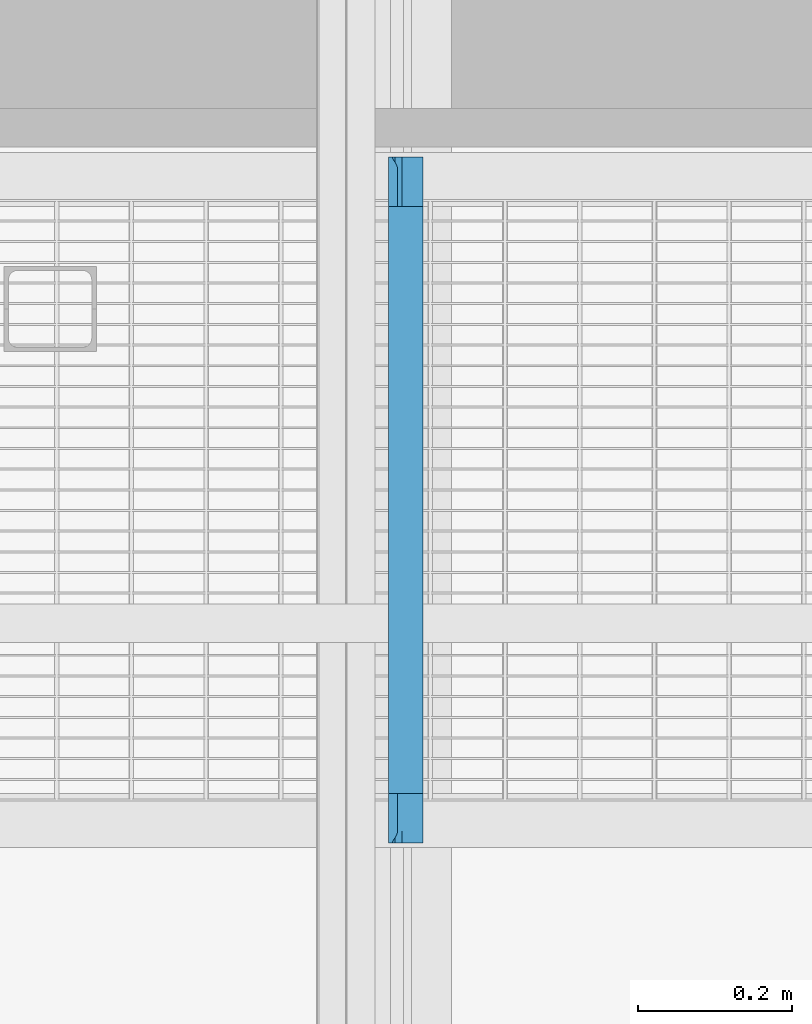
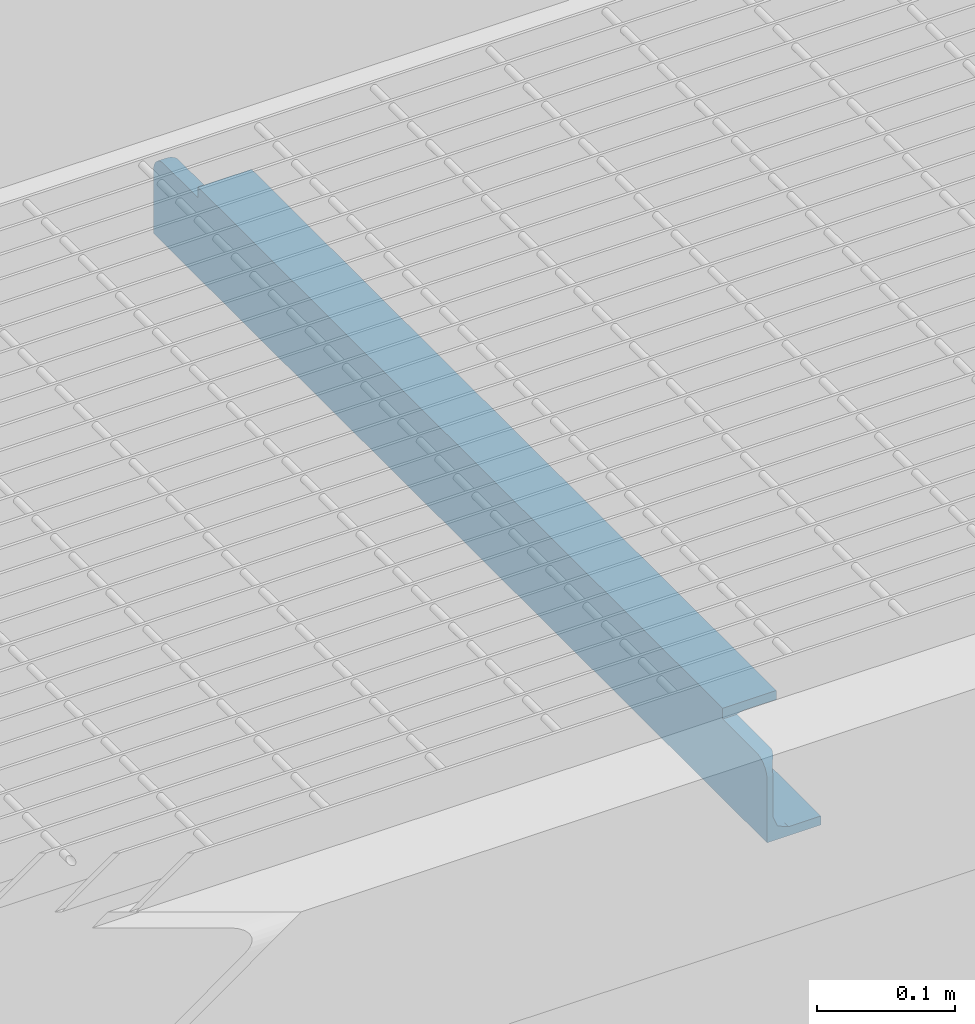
# One storey, part 51 of 75: 1 beam.
"""IFC2X3 building model written with IfcOpenShell, lengths in metres."""

from ifc_helpers import new_model, entity, si_unit, converted_unit, derived_unit, direction, frame, origin, place, context, subcontext, project, spatial, faceted_brep, material, type_object, element, save


model = new_model("IFC2X3")

# Units and contexts
model_context = context("Model", 3, precision=1e-05, world=origin(), true_north=direction((6.12303176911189e-17, 1.0)))
body_context = subcontext(model_context, "Body", "Model", "MODEL_VIEW")
ifc_project = project(units=[si_unit("LENGTHUNIT", "METRE"), si_unit("AREAUNIT", "SQUARE_METRE"), si_unit("VOLUMEUNIT", "CUBIC_METRE"), converted_unit("PLANEANGLEUNIT", "DEGREE", entity("IfcRatioMeasure", 0.0174532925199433), si_unit("PLANEANGLEUNIT", "RADIAN"), dimensions=[0, 0, 0, 0, 0, 0, 0]), si_unit("MASSUNIT", "GRAM", prefix="KILO"), derived_unit("MASSDENSITYUNIT", [(si_unit("MASSUNIT", "GRAM", prefix="KILO"), 1), (si_unit("LENGTHUNIT", "METRE"), -3)]), derived_unit("MOMENTOFINERTIAUNIT", [(si_unit("LENGTHUNIT", "METRE"), 4)]), si_unit("TIMEUNIT", "SECOND"), si_unit("FREQUENCYUNIT", "HERTZ"), si_unit("THERMODYNAMICTEMPERATUREUNIT", "DEGREE_CELSIUS"), derived_unit("THERMALTRANSMITTANCEUNIT", [(si_unit("MASSUNIT", "GRAM", prefix="KILO"), 1), (si_unit("THERMODYNAMICTEMPERATUREUNIT", "KELVIN"), -1), (si_unit("TIMEUNIT", "SECOND"), -3)]), derived_unit("VOLUMETRICFLOWRATEUNIT", [(si_unit("LENGTHUNIT", "METRE"), 3), (si_unit("TIMEUNIT", "SECOND"), -1)]), si_unit("ELECTRICCURRENTUNIT", "AMPERE"), si_unit("ELECTRICVOLTAGEUNIT", "VOLT"), si_unit("POWERUNIT", "WATT"), si_unit("FORCEUNIT", "NEWTON", prefix="KILO"), si_unit("ILLUMINANCEUNIT", "LUX"), si_unit("LUMINOUSFLUXUNIT", "LUMEN"), si_unit("LUMINOUSINTENSITYUNIT", "CANDELA"), derived_unit("USERDEFINED", [(si_unit("MASSUNIT", "GRAM", prefix="KILO"), -1), (si_unit("LENGTHUNIT", "METRE"), -2), (si_unit("TIMEUNIT", "SECOND"), 3), (si_unit("LUMINOUSFLUXUNIT", "LUMEN"), 1)]), derived_unit("LINEARVELOCITYUNIT", [(si_unit("LENGTHUNIT", "METRE"), 1), (si_unit("TIMEUNIT", "SECOND"), -1)]), si_unit("PRESSUREUNIT", "PASCAL"), derived_unit("USERDEFINED", [(si_unit("LENGTHUNIT", "METRE"), -2), (si_unit("MASSUNIT", "GRAM", prefix="KILO"), 1), (si_unit("TIMEUNIT", "SECOND"), -2)]), derived_unit("LINEARFORCEUNIT", [(si_unit("MASSUNIT", "GRAM", prefix="KILO"), 1), (si_unit("LENGTHUNIT", "METRE"), 1), (si_unit("TIMEUNIT", "SECOND"), -2), (si_unit("LENGTHUNIT", "METRE"), -1)]), derived_unit("PLANARFORCEUNIT", [(si_unit("MASSUNIT", "GRAM", prefix="KILO"), 1), (si_unit("LENGTHUNIT", "METRE"), 1), (si_unit("TIMEUNIT", "SECOND"), -2), (si_unit("LENGTHUNIT", "METRE"), -2)])], contexts=[model_context])

# Site, building, storey
site_placement = place(None, origin())
site = spatial("IfcSite", under=ifc_project, at=site_placement, Name="Superficie", CompositionType="ELEMENT")
building_placement = place(site_placement, origin())
building = spatial("IfcBuilding", under=site, at=building_placement, Name="Telegestiones", CompositionType="ELEMENT")
storey_placement = place(building_placement, origin())
storey = spatial("IfcBuildingStorey", under=building, at=storey_placement, Name="Nivel 0_NPT", CompositionType="ELEMENT", Elevation=0.0)

# Beam
ifc_material = material(Name="Metal - Acero - 345 MPa")
beam_type = type_object("IfcBeamType", Name="U-Canales de ala paralela:UAP80", PredefinedType="NOTDEFINED")
beam_placement = place(storey_placement, frame((11.6992897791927, 12.7898119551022, 17.78), z_axis=(0.0, 0.0, 1.0), x_axis=(0.0, -1.0, 0.0)))
element("IfcBeam", 1, at=beam_placement, inside=storey, type_object=beam_type, material=ifc_material, Name="U-Canales de ala paralela:UAP80", ObjectType="U-Canales de ala paralela:UAP80", context=body_context, shape_type="Brep", body=[
    faceted_brep([(-0.00159527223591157, 0.0450000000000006, 0.0), (-0.00159527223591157, 0.0450000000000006, 0.00799999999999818), (-0.00159527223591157, 0.0180000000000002, 0.00799999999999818), (-0.00159527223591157, 0.0140667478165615, 0.00962920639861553), (-0.00159527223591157, 0.0114371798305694, 0.0107184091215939), (-0.00159527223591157, 0.00880761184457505, 0.0118076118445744), (-0.00159527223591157, 0.00785570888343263, 0.014105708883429), (-0.00159527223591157, 0.00690380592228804, 0.0164038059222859), (-0.00159527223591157, 0.00595190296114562, 0.0187019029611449), (-0.00159527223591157, 0.00500000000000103, 0.0209999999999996), (-0.00159527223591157, 0.00500000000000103, 0.0579413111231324), (-0.00159527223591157, 0.0, 0.0579413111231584), (-0.00159527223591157, 0.0, 0.0), (-0.890595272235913, 0.0180000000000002, 0.00799999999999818), (-0.890595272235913, 0.0450000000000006, 0.00799999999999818), (-0.890595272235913, 0.0450000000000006, 0.0), (-0.890595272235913, 0.0, 0.0), (-0.890595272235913, 0.0, 0.0579413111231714), (-0.890595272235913, 0.00500000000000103, 0.0579413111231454), (-0.890595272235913, 0.00500000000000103, 0.0209999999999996), (-0.890595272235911, 0.00581460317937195, 0.0190333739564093), (-0.890595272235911, 0.00690380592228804, 0.0164038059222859), (-0.890595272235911, 0.00785570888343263, 0.0141057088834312), (-0.890595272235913, 0.00880761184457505, 0.0118076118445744), (-0.890595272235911, 0.0111057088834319, 0.0108557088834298), (-0.890595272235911, 0.0134038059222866, 0.00990380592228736), (-0.890595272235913, 0.0160333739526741, 0.00881460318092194), (-0.826295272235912, 0.0, 0.0799999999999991), (-0.0658952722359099, 0.0, 0.0799999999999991), (-0.0658952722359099, 0.0450000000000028, 0.0799999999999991), (-0.826295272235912, 0.0450000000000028, 0.0799999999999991), (-0.0658952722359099, 0.0450000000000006, 0.0719999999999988), (-0.826295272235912, 0.0450000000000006, 0.0719999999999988), (-0.0658952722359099, 0.0180000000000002, 0.0719999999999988), (-0.128842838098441, 0.0180000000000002, 0.0719999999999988), (-0.194304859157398, 0.0180000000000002, 0.0719999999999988), (-0.322714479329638, 0.0180000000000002, 0.0719999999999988), (-0.448609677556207, 0.0180000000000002, 0.072000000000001), (-0.574504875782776, 0.0180000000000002, 0.072000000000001), (-0.700400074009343, 0.0180000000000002, 0.0719999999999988), (-0.763347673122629, 0.0180000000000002, 0.0719999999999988), (-0.826295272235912, 0.0180000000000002, 0.0719999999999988), (-0.125338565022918, 0.00873473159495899, 0.0681189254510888), (-0.00990097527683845, 0.00971902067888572, 0.069021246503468), (-0.00722207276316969, 0.00805140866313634, 0.0673681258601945), (-0.5442968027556, 0.00667192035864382, 0.0653776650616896), (-0.463738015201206, 0.00590908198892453, 0.0637759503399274), (-0.537050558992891, 0.00560250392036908, 0.0629117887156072), (-0.792641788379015, 0.00525335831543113, 0.0615540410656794), (-0.794133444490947, 0.00500000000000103, 0.0589999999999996), (-0.890381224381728, 0.00500000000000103, 0.0589999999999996), (-0.0658952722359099, 0.0119378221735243, 0.0705000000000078), (-0.138679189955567, 0.0108749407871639, 0.0698735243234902), (-0.289684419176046, 0.00818591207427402, 0.0675254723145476), (-0.235689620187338, 0.00983678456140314, 0.0691174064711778), (-0.221438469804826, 0.00711297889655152, 0.0661044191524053), (-0.82835888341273, 0.00588467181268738, 0.0637136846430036), (-0.754190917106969, 0.0058648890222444, 0.063662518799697), (-0.12257071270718, 0.00586898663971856, 0.0636731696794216), (-0.00489743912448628, 0.00653775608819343, 0.0651332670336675), (-0.00303111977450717, 0.00542889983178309, 0.0623117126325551), (-0.139747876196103, 0.0133736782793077, 0.0711489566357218), (-0.0658952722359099, 0.0148775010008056, 0.0716194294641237), (-0.826295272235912, 0.0148775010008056, 0.0716194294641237), (-0.725006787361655, 0.007054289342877, 0.0660136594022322), (-0.806159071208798, 0.007190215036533, 0.066221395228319), (-0.75118826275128, 0.00871967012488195, 0.0681035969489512), (-0.821741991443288, 0.00878771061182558, 0.0681724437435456), (-0.731873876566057, 0.0157137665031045, 0.0717973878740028), (-0.656388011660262, 0.0158751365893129, 0.0718251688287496), (-0.887293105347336, 0.00653775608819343, 0.0651332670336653), (-0.884968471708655, 0.00805140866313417, 0.0673681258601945), (-0.153427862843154, 0.00681728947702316, 0.0656292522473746), (-0.0851009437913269, 0.00708655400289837, 0.0660637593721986), (-0.22387068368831, 0.00557806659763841, 0.0628334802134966), (-0.324805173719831, 0.0068593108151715, 0.0656996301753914), (-0.889159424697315, 0.00542889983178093, 0.0623117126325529), (-0.0163952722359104, 0.01193782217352, 0.0705000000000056), (-0.0129474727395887, 0.0112305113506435, 0.0700983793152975), (-0.875795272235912, 0.0119378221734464, 0.0704999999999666), (-0.826295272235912, 0.0119378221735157, 0.0705000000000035), (-0.879243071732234, 0.0112305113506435, 0.0700983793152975), (-0.399380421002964, 0.00536884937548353, 0.0620747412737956), (-0.392844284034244, 0.00621995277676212, 0.0644982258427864), (-0.226457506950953, 0.0133736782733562, 0.0711489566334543), (-0.161573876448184, 0.0157225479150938, 0.0717989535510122), (-0.753454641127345, 0.0133736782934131, 0.0711489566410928), (-0.667605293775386, 0.0133736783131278, 0.0711489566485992), (-0.710529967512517, 0.010898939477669, 0.069889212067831), (-0.882289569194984, 0.00971902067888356, 0.0690212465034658), (-0.390878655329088, 0.0147556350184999, 0.0715886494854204), (-0.511557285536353, 0.0147219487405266, 0.0715799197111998), (-0.447031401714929, 0.0116878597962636, 0.0703647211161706), (-0.155170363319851, 0.00522625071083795, 0.0614148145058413), (-0.0800317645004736, 0.00520855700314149, 0.0613192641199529), (-0.127704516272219, 0.00500000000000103, 0.0589999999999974), (-0.717894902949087, 0.00523967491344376, 0.0614847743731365), (-0.664463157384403, 0.00890351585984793, 0.0682873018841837), (-0.313627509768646, 0.0152996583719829, 0.0717164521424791), (-0.236434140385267, 0.0158580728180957, 0.0718223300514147), (-0.566912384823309, 0.011307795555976, 0.0701451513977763), (-0.449725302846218, 0.007164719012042, 0.0661830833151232), (-0.330812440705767, 0.01176120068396, 0.0704051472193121), (-0.00180932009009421, 0.00500000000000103, 0.0589999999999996), (-0.374471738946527, 0.00795566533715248, 0.0672529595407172), (-0.339661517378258, 0.00960203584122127, 0.0689234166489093), (-0.495596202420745, 0.00856943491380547, 0.0679478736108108), (-0.419471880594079, 0.00955595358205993, 0.0688842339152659), (-0.591250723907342, 0.0142535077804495, 0.0714484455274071), (-0.637492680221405, 0.0107328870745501, 0.0697791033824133), (-0.580926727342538, 0.00847032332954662, 0.0678422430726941), (-0.614751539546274, 0.00554163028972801, 0.0627133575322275), (-0.479182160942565, 0.00521908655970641, 0.0613766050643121), (-0.636794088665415, 0.00709380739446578, 0.0660749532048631), (-0.601637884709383, 0.00500000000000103, 0.0589999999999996), (-0.697885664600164, 0.00500000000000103, 0.0589999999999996), (-0.682036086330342, 0.005831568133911, 0.0635748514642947), (-0.5053901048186, 0.00500000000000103, 0.0589999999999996), (-0.327009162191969, 0.00576169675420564, 0.0633845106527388), (-0.253599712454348, 0.00500000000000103, 0.0589999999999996), (-0.379494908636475, 0.00500000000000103, 0.0589999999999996), (-0.890497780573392, 0.00500000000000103, 0.058472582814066), (-0.00169276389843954, 0.00500000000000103, 0.0584725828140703), (-0.127490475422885, 0.00500000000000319, 0.0209999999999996), (-0.25338564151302, 0.00500000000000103, 0.0209999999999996), (-0.349740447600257, 0.00500000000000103, 0.0209999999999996), (-0.446095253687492, 0.00500000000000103, 0.0209999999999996), (-0.557220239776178, 0.00500000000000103, 0.0209999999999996), (-0.6683452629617, 0.00500000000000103, 0.0209999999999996), (-0.764700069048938, 0.00500000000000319, 0.0209999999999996), (-0.079487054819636, 0.00972190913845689, 0.0109763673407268), (-0.435997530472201, 0.00556213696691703, 0.0172185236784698), (-0.373294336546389, 0.00522987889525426, 0.0185660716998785), (-0.639580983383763, 0.0053531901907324, 0.0179903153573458), (-0.632632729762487, 0.00637757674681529, 0.0151759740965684), (-0.716522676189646, 0.00574745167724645, 0.0166554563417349), (-0.449211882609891, 0.012354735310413, 0.00928970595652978), (-0.320388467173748, 0.0113965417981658, 0.00980203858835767), (-0.33883709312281, 0.0147439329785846, 0.00841437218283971), (-0.524503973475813, 0.0144490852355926, 0.00849436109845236), (-0.512909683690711, 0.0180000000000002, 0.00799999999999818), (-0.601869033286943, 0.0154448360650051, 0.00825358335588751), (-0.403832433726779, 0.00939162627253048, 0.011258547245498), (-0.673005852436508, 0.0104857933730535, 0.0103916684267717), (-0.573219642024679, 0.0105107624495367, 0.0103740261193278), (-0.608382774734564, 0.0127204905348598, 0.00912032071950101), (-0.557220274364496, 0.00560622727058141, 0.0170764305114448), (-0.300537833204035, 0.00846054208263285, 0.0121683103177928), (-0.726955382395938, 0.0139509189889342, 0.00864666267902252), (-0.764700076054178, 0.0180000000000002, 0.00800000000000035), (-0.813619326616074, 0.0144028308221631, 0.00850758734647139), (-0.207094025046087, 0.00538630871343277, 0.0178544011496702), (-0.301563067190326, 0.00537533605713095, 0.017898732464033), (-0.349740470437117, 0.00647967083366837, 0.0149765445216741), (-0.150052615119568, 0.0110865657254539, 0.00999071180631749), (-0.0758239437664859, 0.0123642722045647, 0.00928511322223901), (-0.153439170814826, 0.00630537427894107, 0.0153223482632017), (-0.0880955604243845, 0.00767465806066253, 0.0131014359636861), (-0.183268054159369, 0.0083334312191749, 0.0123076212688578), (-0.236059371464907, 0.0108404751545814, 0.0101491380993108), (-0.118743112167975, 0.00535692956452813, 0.0179746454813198), (-0.0782307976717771, 0.00607386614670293, 0.0158262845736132), (-0.25139119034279, 0.0134664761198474, 0.00881611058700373), (-0.0763306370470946, 0.0152252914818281, 0.00829956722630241), (-0.160897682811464, 0.0144821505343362, 0.00848501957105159), (-0.127490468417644, 0.0180000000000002, 0.00800000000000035), (-0.194304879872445, 0.0180000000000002, 0.00799999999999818), (-0.290659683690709, 0.0180000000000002, 0.00799999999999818), (-0.387014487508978, 0.0180000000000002, 0.00800000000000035), (-0.274648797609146, 0.0156603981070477, 0.00821226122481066), (-0.428012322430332, 0.0152285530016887, 0.00829885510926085), (-0.512909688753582, 0.00904802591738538, 0.0115733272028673), (-0.544443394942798, 0.00701878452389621, 0.0140420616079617), (-0.607082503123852, 0.00857249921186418, 0.0120488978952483), (-0.785766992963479, 0.00998354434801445, 0.0107659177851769), (-0.700833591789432, 0.00807841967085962, 0.0125998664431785), (-0.638804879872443, 0.0180000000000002, 0.00799999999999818), (-0.80284616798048, 0.00747715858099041, 0.0133665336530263), (-0.807175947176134, 0.00550758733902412, 0.0174028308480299), (-0.447339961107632, 0.00719760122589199, 0.0137675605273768), (-0.251589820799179, 0.00639123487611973, 0.0151487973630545), (-0.369128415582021, 0.00783049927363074, 0.0129017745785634), (-0.69857486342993, 0.00670885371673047, 0.0145571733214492), (-0.821923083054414, 0.0119518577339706, 0.00949261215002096), (-0.0163952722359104, 0.0, 0.0705000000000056), (-0.0658952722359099, 0.0, 0.0705000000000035), (-0.826295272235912, 0.0, 0.0705000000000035), (-0.875795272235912, 0.0, 0.0705000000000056), (-0.879281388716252, 0.0, 0.0700892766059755), (-0.88257659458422, 0.0, 0.0688795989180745), (-0.885500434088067, 0.0, 0.0669372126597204), (-0.887892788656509, 0.0, 0.0643684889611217), (-0.88962264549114, 0.0, 0.0613140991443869), (-0.00256789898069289, 0.0, 0.0613140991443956), (-0.00429775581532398, 0.0, 0.0643684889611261), (-0.00669011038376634, 0.0, 0.0669372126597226), (-0.0096139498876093, 0.0, 0.0688795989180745), (-0.0129091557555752, 0.0, 0.0700892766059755)], [[[0, 1, 2, 3, 4, 5, 6, 7, 8, 9, 10, 11, 12]], [[13, 14, 15, 16, 17, 18, 19, 20, 21, 22, 23, 24, 25, 26]], [[27, 28, 29, 30]], [[30, 29, 31, 32]], [[14, 1, 0, 15]], [[32, 31, 33, 34, 35, 36, 37, 38, 39, 40, 41]], [[42, 43, 44]], [[45, 46, 47]], [[48, 49, 50]], [[51, 42, 52]], [[42, 51, 43]], [[53, 54, 55]], [[56, 57, 48]], [[58, 59, 60]], [[51, 61, 62]], [[34, 33, 62]], [[41, 40, 63]], [[64, 65, 66]], [[66, 65, 67]], [[42, 55, 54]], [[68, 39, 69]], [[65, 70, 71]], [[68, 40, 39]], [[72, 73, 58]], [[74, 75, 55]], [[70, 56, 76]], [[77, 78, 51]], [[79, 80, 81]], [[82, 46, 83]], [[52, 61, 51]], [[84, 85, 61]], [[44, 73, 42]], [[86, 87, 88]], [[86, 80, 63]], [[80, 89, 81]], [[37, 36, 90]], [[58, 73, 59]], [[71, 89, 67]], [[91, 90, 92]], [[93, 94, 95]], [[80, 67, 89]], [[48, 57, 96]], [[78, 43, 51]], [[88, 97, 66]], [[98, 36, 99]], [[58, 60, 94]], [[91, 92, 100]], [[46, 101, 83]], [[70, 65, 56]], [[99, 85, 84]], [[57, 65, 64]], [[71, 67, 65]], [[66, 67, 80]], [[54, 102, 84]], [[48, 96, 49]], [[103, 94, 60]], [[53, 104, 105]], [[106, 100, 92]], [[55, 75, 53]], [[92, 90, 102]], [[102, 105, 107]], [[69, 38, 108]], [[38, 37, 91]], [[100, 108, 91]], [[109, 88, 87]], [[105, 104, 107]], [[110, 109, 100]], [[47, 111, 45]], [[45, 110, 106]], [[112, 46, 82]], [[62, 85, 34]], [[54, 84, 52]], [[66, 80, 88]], [[86, 63, 68]], [[86, 88, 80]], [[66, 97, 64]], [[113, 97, 110]], [[97, 88, 109]], [[113, 110, 45]], [[106, 110, 100]], [[114, 115, 111]], [[101, 46, 45]], [[45, 111, 113]], [[57, 116, 96]], [[117, 114, 47]], [[98, 99, 84]], [[37, 90, 91]], [[48, 50, 76]], [[72, 58, 74]], [[61, 52, 84]], [[52, 42, 54]], [[57, 64, 116]], [[113, 64, 97]], [[35, 34, 85]], [[99, 35, 85]], [[61, 85, 62]], [[99, 36, 35]], [[90, 36, 98]], [[68, 69, 87]], [[40, 68, 63]], [[86, 68, 87]], [[87, 69, 108]], [[69, 39, 38]], [[87, 108, 100]], [[91, 108, 38]], [[112, 47, 46]], [[118, 119, 120]], [[57, 56, 65]], [[56, 48, 76]], [[115, 49, 96]], [[96, 111, 115]], [[111, 96, 116]], [[116, 113, 111]], [[113, 116, 64]], [[97, 109, 110]], [[100, 109, 87]], [[74, 119, 118]], [[95, 119, 93]], [[111, 47, 114]], [[117, 47, 112]], [[112, 120, 117]], [[83, 118, 82]], [[82, 120, 112]], [[82, 118, 120]], [[118, 83, 75]], [[101, 107, 104]], [[83, 101, 104]], [[106, 101, 45]], [[59, 73, 44]], [[55, 42, 72]], [[73, 72, 42]], [[55, 72, 74]], [[58, 94, 93]], [[95, 94, 103]], [[93, 74, 58]], [[74, 93, 119]], [[102, 54, 105]], [[104, 53, 75]], [[53, 105, 54]], [[92, 102, 107]], [[107, 106, 92]], [[106, 107, 101]], [[104, 75, 83]], [[74, 118, 75]], [[98, 102, 90]], [[102, 98, 84]], [[19, 18, 121, 50, 49, 115, 114, 117, 120, 119, 95, 103, 122, 10, 9, 123, 124, 125, 126, 127, 128, 129]], [[4, 130, 5]], [[131, 126, 132]], [[133, 134, 135]], [[136, 137, 138]], [[139, 140, 141]], [[142, 137, 136]], [[143, 144, 145]], [[127, 146, 133]], [[137, 142, 147]], [[148, 149, 150]], [[124, 123, 151]], [[152, 153, 132]], [[154, 130, 155]], [[156, 157, 158]], [[137, 147, 159]], [[160, 161, 156]], [[162, 138, 137]], [[162, 137, 159]], [[163, 3, 2]], [[154, 162, 159]], [[3, 163, 155]], [[164, 165, 166]], [[167, 168, 138]], [[166, 169, 164]], [[164, 169, 162]], [[170, 139, 136]], [[136, 144, 171]], [[138, 170, 136]], [[168, 170, 138]], [[172, 171, 173]], [[145, 148, 143]], [[172, 146, 131]], [[128, 135, 129]], [[143, 174, 175]], [[141, 176, 148]], [[174, 23, 177]], [[129, 178, 20]], [[21, 178, 177]], [[20, 178, 21]], [[179, 171, 172]], [[172, 134, 146]], [[142, 171, 179]], [[138, 162, 169]], [[164, 162, 154]], [[159, 158, 154]], [[158, 147, 180]], [[158, 159, 147]], [[181, 142, 179]], [[5, 130, 157]], [[180, 156, 158]], [[147, 142, 181]], [[171, 142, 136]], [[153, 179, 131]], [[172, 131, 179]], [[125, 124, 152]], [[126, 131, 146]], [[180, 152, 151]], [[125, 152, 132]], [[153, 152, 180]], [[153, 180, 147]], [[160, 156, 151]], [[156, 180, 151]], [[161, 6, 157]], [[151, 152, 124]], [[8, 160, 123]], [[123, 160, 151]], [[161, 8, 7, 6]], [[134, 133, 146]], [[173, 134, 172]], [[134, 182, 135]], [[175, 134, 173]], [[175, 173, 143]], [[173, 171, 144]], [[174, 177, 175]], [[176, 149, 148]], [[143, 148, 174]], [[26, 150, 149]], [[183, 24, 174]], [[150, 25, 183]], [[182, 175, 177]], [[22, 21, 177, 23]], [[154, 158, 130]], [[127, 126, 146]], [[133, 135, 128]], [[156, 161, 157]], [[8, 123, 9]], [[20, 19, 129]], [[157, 130, 158]], [[4, 3, 155]], [[155, 163, 164]], [[4, 155, 130]], [[154, 155, 164]], [[163, 165, 164]], [[165, 163, 2]], [[139, 144, 136]], [[170, 168, 140]], [[145, 139, 141]], [[139, 170, 140]], [[173, 144, 143]], [[139, 145, 144]], [[145, 141, 148]], [[176, 141, 140]], [[25, 150, 26]], [[149, 13, 26]], [[174, 148, 183]], [[150, 183, 148]], [[23, 174, 24]], [[183, 25, 24]], [[178, 135, 177]], [[135, 178, 129]], [[169, 167, 138]], [[127, 133, 128]], [[167, 169, 166]], [[181, 153, 147]], [[153, 181, 179]], [[125, 132, 126]], [[131, 132, 153]], [[160, 8, 161]], [[135, 182, 177]], [[182, 134, 175]], [[6, 5, 157]], [[1, 14, 13, 149, 176, 140, 168, 167, 166, 165, 2]], [[15, 0, 12, 16]], [[184, 185, 28, 27, 186, 187, 188, 189, 190, 191, 192, 17, 16, 12, 11, 193, 194, 195, 196, 197]], [[51, 62, 33, 31, 29, 28, 185]], [[51, 185, 184, 77]], [[80, 79, 187, 186]], [[78, 184, 197]], [[197, 196, 43]], [[195, 44, 196]], [[77, 184, 78]], [[78, 197, 43]], [[196, 44, 43]], [[195, 59, 44]], [[60, 194, 193]], [[193, 11, 103]], [[10, 122, 11]], [[60, 59, 194]], [[122, 103, 11]], [[60, 193, 103]], [[194, 59, 195]], [[17, 50, 121]], [[50, 17, 192]], [[50, 192, 76]], [[76, 192, 191]], [[121, 18, 17]], [[70, 76, 191]], [[191, 190, 70]], [[71, 190, 189]], [[189, 188, 89]], [[187, 81, 188]], [[71, 189, 89]], [[81, 89, 188]], [[79, 81, 187]], [[190, 71, 70]], [[80, 186, 27, 30, 32, 41, 63]]]),
])

save(model, "model.ifc")
